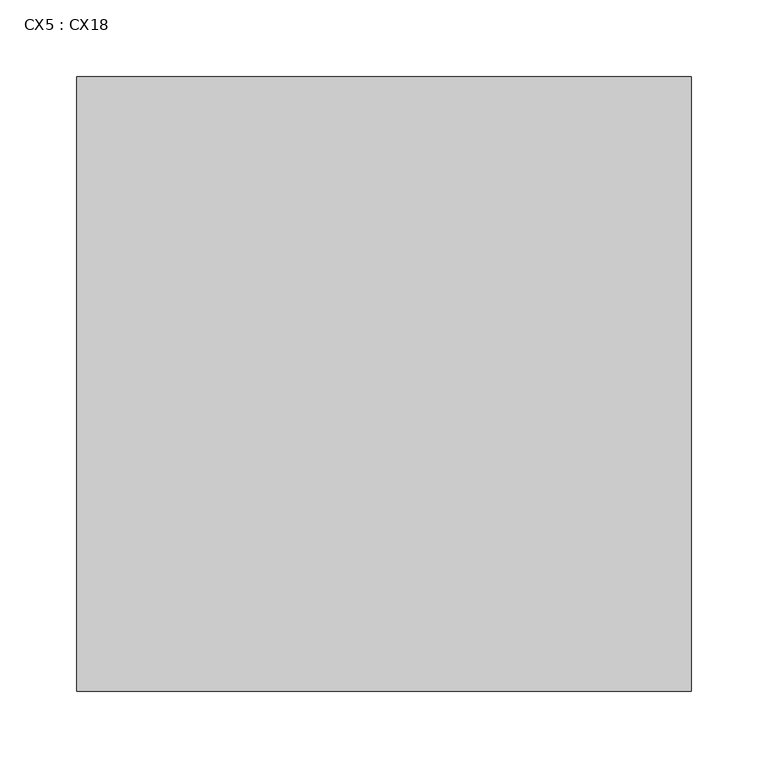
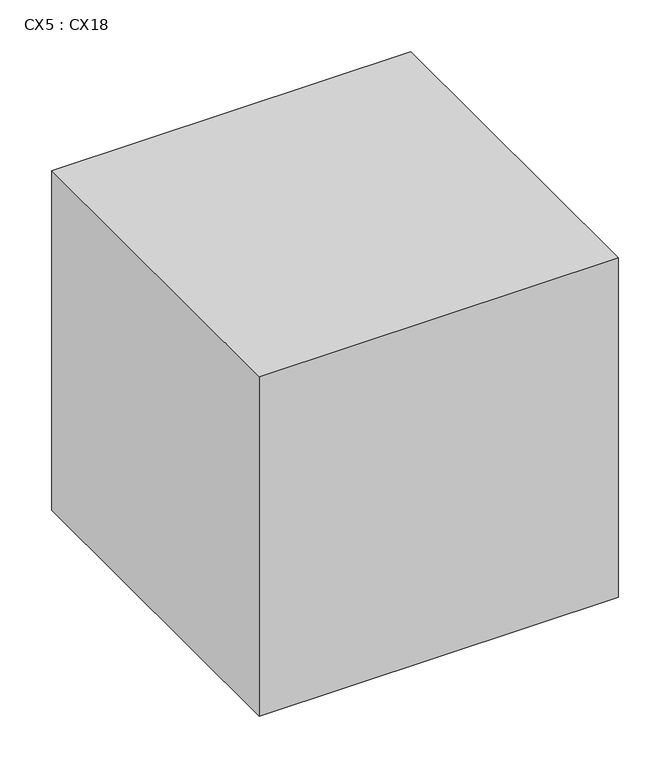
"""IFC4 building model written with IfcOpenShell, lengths in millimetres: proxy geometry, CX5 : CX18."""

from ifc_helpers import new_model, si_unit, frame, origin, place, context, project, spatial, polyline, outline, extrude, source, transform, mapped, element, save


def cx5_cx18_85062926(model_context):
    return source(origin(), model_context, "Body", "SweptSolid", [
        extrude(outline(polyline([(10126.7746511, -296.0878255), (10126.7746511, -696.0878255), (9726.7746511, -696.0878255), (9726.7746511, -296.0878255), (10126.7746511, -296.0878255)])), frame((0.0, 0.0, 1130.0), z_axis=(0.0, 0.0, 1.0), x_axis=(1.0, 0.0, 0.0)), (0.0, 0.0, 1.0), 400.0),
    ])


if __name__ == "__main__":
    model = new_model("IFC4")
    model_context = context("Model", 3, world=origin())
    ifc_project = project(units=[si_unit("LENGTHUNIT", "METRE", prefix="MILLI")], contexts=[model_context])
    site = spatial("IfcSite", under=ifc_project)
    building = spatial("IfcBuilding", under=site)
    placement = place(None, origin())
    cx5_cx18_shape = cx5_cx18_85062926(model_context)
    element("IfcBuildingElementProxy", 1, Name="CX5 : CX18", ObjectType="CX5 : CX18", at=placement, inside=building, context=model_context, shape_type="MappedRepresentation", body=[
        mapped(cx5_cx18_shape, transform((0.0, 0.0, 0.0), x_axis=(1.0, 0.0, 0.0), y_axis=(0.0, 1.0, 0.0), z_axis=(0.0, 0.0, 1.0))),
    ])
    save(model, "model.ifc")
